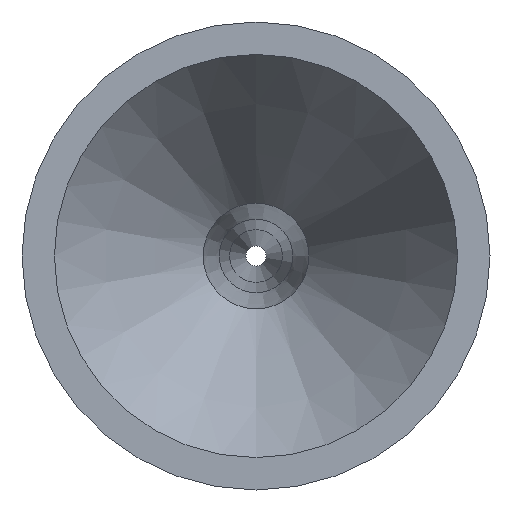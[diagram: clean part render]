
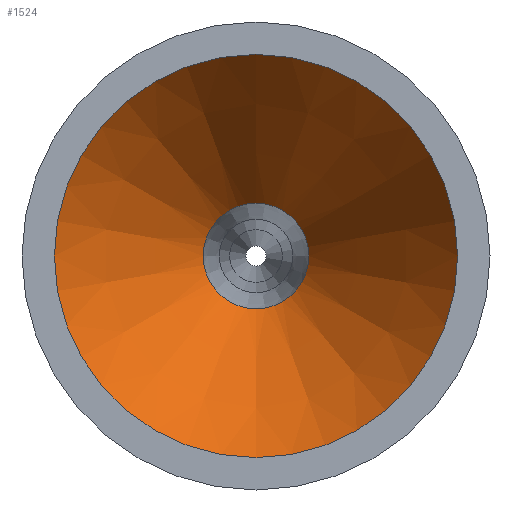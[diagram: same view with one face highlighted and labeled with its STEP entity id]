
A CAD part, left-side view. The second image highlights one B-rep face of the part: STEP entity #1524.
In plain terms, the highlighted conical face has half-angle 34.369 degrees and reference radius 8.4 mm.
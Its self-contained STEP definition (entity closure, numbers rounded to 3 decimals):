
#119 = FACE_OUTER_BOUND ( 'NONE', #1456, .T. ) ;
#137 = CARTESIAN_POINT ( 'NONE',  ( 5.883, 0., 0. ) ) ;
#192 = VERTEX_POINT ( 'NONE', #847 ) ;
#280 = CIRCLE ( 'NONE', #1505, 2.2 ) ;
#489 = CONICAL_SURFACE ( 'NONE', #1986, 8.4, 0.6 ) ;
#521 = DIRECTION ( 'NONE',  ( 0., -1., 0. ) ) ;
#614 = CIRCLE ( 'NONE', #786, 8.4 ) ;
#772 = CARTESIAN_POINT ( 'NONE',  ( 5.883, 0., 0. ) ) ;
#786 = AXIS2_PLACEMENT_3D ( 'NONE', #137, #788, #1467 ) ;
#788 = DIRECTION ( 'NONE',  ( -1., 0., 0. ) ) ;
#794 = CARTESIAN_POINT ( 'NONE',  ( 14.948, 0., 0. ) ) ;
#847 = CARTESIAN_POINT ( 'NONE',  ( 14.948, -2.2, 0. ) ) ;
#1247 = ORIENTED_EDGE ( 'NONE', *, *, #1608, .F. ) ;
#1308 = DIRECTION ( 'NONE',  ( 0., 0., 1. ) ) ;
#1331 = VERTEX_POINT ( 'NONE', #1496 ) ;
#1456 = EDGE_LOOP ( 'NONE', ( #1541 ) ) ;
#1467 = DIRECTION ( 'NONE',  ( 0., 0., 1. ) ) ;
#1496 = CARTESIAN_POINT ( 'NONE',  ( 5.883, 0., 8.4 ) ) ;
#1505 = AXIS2_PLACEMENT_3D ( 'NONE', #794, #2143, #521 ) ;
#1518 = DIRECTION ( 'NONE',  ( -1., 0., 0. ) ) ;
#1524 = ADVANCED_FACE ( 'NONE', ( #1614, #119 ), #489, .F. ) ;
#1541 = ORIENTED_EDGE ( 'NONE', *, *, #1707, .T. ) ;
#1608 = EDGE_CURVE ( 'NONE', #192, #192, #280, .T. ) ;
#1614 = FACE_BOUND ( 'NONE', #1730, .T. ) ;
#1707 = EDGE_CURVE ( 'NONE', #1331, #1331, #614, .T. ) ;
#1730 = EDGE_LOOP ( 'NONE', ( #1247 ) ) ;
#1986 = AXIS2_PLACEMENT_3D ( 'NONE', #772, #1518, #1308 ) ;
#2143 = DIRECTION ( 'NONE',  ( -1., 0., 0. ) ) ;
